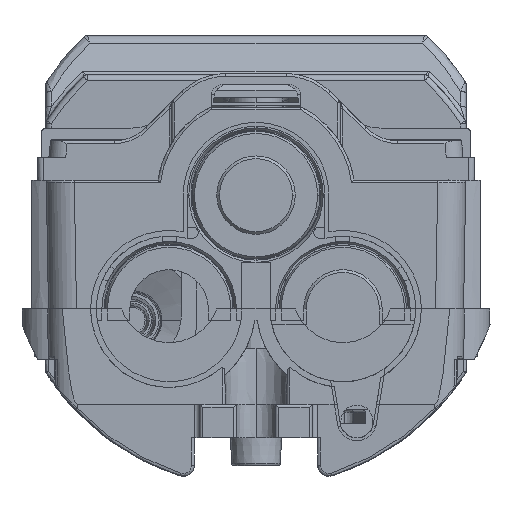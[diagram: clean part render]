
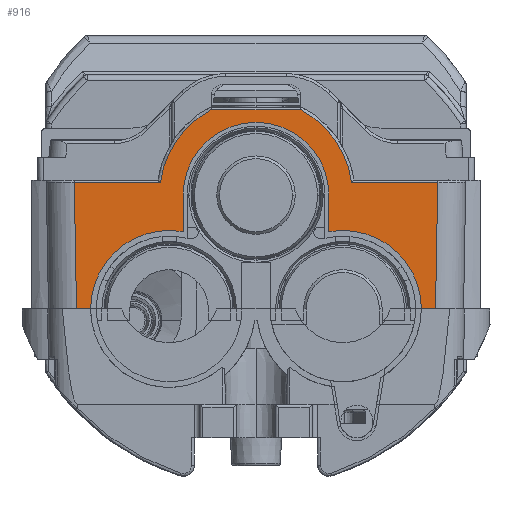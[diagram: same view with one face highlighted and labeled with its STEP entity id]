
A CAD part, left-side view. The second image highlights one B-rep face of the part: STEP entity #916.
In plain terms, the highlighted planar face has unit normal (-1, 0, 0).
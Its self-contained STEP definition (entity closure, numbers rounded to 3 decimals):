
#916 = ADVANCED_FACE ( 'NONE', ( #24275 ), #46040, .F. ) ;
#2554 = DIRECTION ( 'NONE',  ( 0., -1., 0. ) ) ;
#2935 = CIRCLE ( 'NONE', #37929, 17.2 ) ;
#3190 = CARTESIAN_POINT ( 'NONE',  ( -325.383, -8.05, 69.5 ) ) ;
#3486 = EDGE_CURVE ( 'NONE', #23854, #34823, #47620, .T. ) ;
#4989 = ORIENTED_EDGE ( 'NONE', *, *, #21580, .T. ) ;
#5275 = VERTEX_POINT ( 'NONE', #24694 ) ;
#5630 = ORIENTED_EDGE ( 'NONE', *, *, #31338, .T. ) ;
#6166 = VERTEX_POINT ( 'NONE', #17278 ) ;
#7150 = DIRECTION ( 'NONE',  ( 0., -0.017, -1. ) ) ;
#7215 = CARTESIAN_POINT ( 'NONE',  ( -325.383, 37.029, 56.5 ) ) ;
#7376 = CARTESIAN_POINT ( 'NONE',  ( -325.383, 0., 54.3 ) ) ;
#8062 = CARTESIAN_POINT ( 'NONE',  ( -325.383, 32.028, 34. ) ) ;
#8115 = LINE ( 'NONE', #39752, #52923 ) ;
#8473 = ORIENTED_EDGE ( 'NONE', *, *, #37780, .F. ) ;
#9037 = AXIS2_PLACEMENT_3D ( 'NONE', #49622, #24477, #53807 ) ;
#9644 = ORIENTED_EDGE ( 'NONE', *, *, #54199, .T. ) ;
#10335 = CARTESIAN_POINT ( 'NONE',  ( -325.383, 17.059, 56.5 ) ) ;
#10448 = VERTEX_POINT ( 'NONE', #44760 ) ;
#10779 = AXIS2_PLACEMENT_3D ( 'NONE', #39393, #14106, #43585 ) ;
#11211 = EDGE_CURVE ( 'NONE', #52569, #17937, #50276, .T. ) ;
#11373 = CARTESIAN_POINT ( 'NONE',  ( -325.383, -13., 47.775 ) ) ;
#11464 = DIRECTION ( 'NONE',  ( 0., 1., 0. ) ) ;
#11642 = DIRECTION ( 'NONE',  ( 0., 0., -1. ) ) ;
#13443 = CARTESIAN_POINT ( 'NONE',  ( -325.383, -32.421, 56.5 ) ) ;
#13640 = VECTOR ( 'NONE', #11464, 1000. ) ;
#14106 = DIRECTION ( 'NONE',  ( -1., 0., 0. ) ) ;
#14398 = CARTESIAN_POINT ( 'NONE',  ( -325.383, -32.74, 74.782 ) ) ;
#14450 = VECTOR ( 'NONE', #21692, 1000. ) ;
#14510 = DIRECTION ( 'NONE',  ( 0., -1., 0. ) ) ;
#14886 = VERTEX_POINT ( 'NONE', #13443 ) ;
#15044 = ORIENTED_EDGE ( 'NONE', *, *, #39522, .T. ) ;
#15179 = ORIENTED_EDGE ( 'NONE', *, *, #11211, .T. ) ;
#15500 = CARTESIAN_POINT ( 'NONE',  ( -325.383, 32.762, 76.074 ) ) ;
#16508 = ORIENTED_EDGE ( 'NONE', *, *, #38012, .F. ) ;
#17095 = CARTESIAN_POINT ( 'NONE',  ( -325.383, 37.029, 69.5 ) ) ;
#17278 = CARTESIAN_POINT ( 'NONE',  ( -325.383, 32.421, 56.5 ) ) ;
#17364 = EDGE_CURVE ( 'NONE', #19461, #23854, #53613, .T. ) ;
#17422 = CARTESIAN_POINT ( 'NONE',  ( -325.383, 13., 54.3 ) ) ;
#17655 = EDGE_CURVE ( 'NONE', #33334, #23708, #8115, .T. ) ;
#17937 = VERTEX_POINT ( 'NONE', #54393 ) ;
#18534 = CARTESIAN_POINT ( 'NONE',  ( -325.383, 13., 47.775 ) ) ;
#19141 = EDGE_CURVE ( 'NONE', #17937, #53884, #38426, .T. ) ;
#19461 = VERTEX_POINT ( 'NONE', #39289 ) ;
#19628 = LINE ( 'NONE', #14398, #29502 ) ;
#20785 = VECTOR ( 'NONE', #7150, 1000. ) ;
#21580 = EDGE_CURVE ( 'NONE', #10448, #52569, #2935, .T. ) ;
#21692 = DIRECTION ( 'NONE',  ( 0., 0., -1. ) ) ;
#22428 = VECTOR ( 'NONE', #24353, 1000. ) ;
#23102 = ORIENTED_EDGE ( 'NONE', *, *, #17364, .F. ) ;
#23546 = CARTESIAN_POINT ( 'NONE',  ( -325.383, 0., 54.3 ) ) ;
#23708 = VERTEX_POINT ( 'NONE', #39469 ) ;
#23735 = LINE ( 'NONE', #53688, #22428 ) ;
#23854 = VERTEX_POINT ( 'NONE', #11373 ) ;
#24275 = FACE_OUTER_BOUND ( 'NONE', #46389, .T. ) ;
#24353 = DIRECTION ( 'NONE',  ( 0., -1., 0. ) ) ;
#24477 = DIRECTION ( 'NONE',  ( -1., 0., 0. ) ) ;
#24694 = CARTESIAN_POINT ( 'NONE',  ( -325.383, -32.028, 34. ) ) ;
#25158 = DIRECTION ( 'NONE',  ( 1., 0., 0. ) ) ;
#25360 = VECTOR ( 'NONE', #34984, 1000. ) ;
#25766 = DIRECTION ( 'NONE',  ( 0., 1., 0. ) ) ;
#26229 = DIRECTION ( 'NONE',  ( 0., 1., 0. ) ) ;
#26238 = LINE ( 'NONE', #7215, #13640 ) ;
#26851 = ORIENTED_EDGE ( 'NONE', *, *, #17655, .T. ) ;
#26855 = EDGE_CURVE ( 'NONE', #34823, #34153, #54504, .T. ) ;
#27767 = DIRECTION ( 'NONE',  ( 0., 0., -1. ) ) ;
#27771 = VECTOR ( 'NONE', #26229, 1000. ) ;
#27815 = DIRECTION ( 'NONE',  ( -1., 0., 0. ) ) ;
#28554 = EDGE_CURVE ( 'NONE', #19461, #5275, #23735, .T. ) ;
#29128 = LINE ( 'NONE', #51375, #27771 ) ;
#29502 = VECTOR ( 'NONE', #48057, 1000. ) ;
#30276 = ORIENTED_EDGE ( 'NONE', *, *, #19141, .T. ) ;
#30883 = ORIENTED_EDGE ( 'NONE', *, *, #26855, .F. ) ;
#31338 = EDGE_CURVE ( 'NONE', #5275, #14886, #19628, .T. ) ;
#32725 = CARTESIAN_POINT ( 'NONE',  ( -325.383, -13., 54.3 ) ) ;
#33334 = VERTEX_POINT ( 'NONE', #8062 ) ;
#34153 = VERTEX_POINT ( 'NONE', #54174 ) ;
#34823 = VERTEX_POINT ( 'NONE', #32725 ) ;
#34984 = DIRECTION ( 'NONE',  ( 0., 0., 1. ) ) ;
#36946 = DIRECTION ( 'NONE',  ( -1., 0., 0. ) ) ;
#37780 = EDGE_CURVE ( 'NONE', #42906, #23708, #46091, .T. ) ;
#37929 = AXIS2_PLACEMENT_3D ( 'NONE', #23546, #52909, #27767 ) ;
#38012 = EDGE_CURVE ( 'NONE', #34153, #42906, #48009, .T. ) ;
#38426 = CIRCLE ( 'NONE', #51875, 17.2 ) ;
#39289 = CARTESIAN_POINT ( 'NONE',  ( -325.383, -29.5, 34. ) ) ;
#39393 = CARTESIAN_POINT ( 'NONE',  ( -325.383, 0., 54.3 ) ) ;
#39469 = CARTESIAN_POINT ( 'NONE',  ( -325.383, 29.5, 34. ) ) ;
#39522 = EDGE_CURVE ( 'NONE', #53884, #6166, #26238, .T. ) ;
#39752 = CARTESIAN_POINT ( 'NONE',  ( -325.383, 37.029, 34. ) ) ;
#42002 = AXIS2_PLACEMENT_3D ( 'NONE', #52951, #27815, #2554 ) ;
#42906 = VERTEX_POINT ( 'NONE', #18534 ) ;
#43030 = EDGE_CURVE ( 'NONE', #6166, #33334, #43087, .T. ) ;
#43087 = LINE ( 'NONE', #15500, #20785 ) ;
#43585 = DIRECTION ( 'NONE',  ( 0., -1., 0. ) ) ;
#43749 = AXIS2_PLACEMENT_3D ( 'NONE', #50289, #25158, #54486 ) ;
#43918 = ORIENTED_EDGE ( 'NONE', *, *, #43030, .T. ) ;
#44760 = CARTESIAN_POINT ( 'NONE',  ( -325.383, -17.059, 56.5 ) ) ;
#44814 = ORIENTED_EDGE ( 'NONE', *, *, #28554, .T. ) ;
#46040 = PLANE ( 'NONE',  #43749 ) ;
#46091 = CIRCLE ( 'NONE', #9037, 14. ) ;
#46389 = EDGE_LOOP ( 'NONE', ( #30276, #15044, #43918, #26851, #8473, #16508, #30883, #46599, #23102, #44814, #5630, #9644, #4989, #15179 ) ) ;
#46599 = ORIENTED_EDGE ( 'NONE', *, *, #3486, .F. ) ;
#47620 = LINE ( 'NONE', #47720, #25360 ) ;
#47720 = CARTESIAN_POINT ( 'NONE',  ( -325.383, -13., 54.3 ) ) ;
#48009 = LINE ( 'NONE', #17422, #14450 ) ;
#48057 = DIRECTION ( 'NONE',  ( 0., -0.017, 1. ) ) ;
#48911 = VECTOR ( 'NONE', #25766, 1000. ) ;
#49622 = CARTESIAN_POINT ( 'NONE',  ( -325.383, 15.5, 34. ) ) ;
#50276 = LINE ( 'NONE', #17095, #48911 ) ;
#50289 = CARTESIAN_POINT ( 'NONE',  ( -325.383, 37.029, 76. ) ) ;
#51375 = CARTESIAN_POINT ( 'NONE',  ( -325.383, 37.029, 56.5 ) ) ;
#51875 = AXIS2_PLACEMENT_3D ( 'NONE', #7376, #36946, #11642 ) ;
#52569 = VERTEX_POINT ( 'NONE', #3190 ) ;
#52909 = DIRECTION ( 'NONE',  ( -1., 0., 0. ) ) ;
#52923 = VECTOR ( 'NONE', #14510, 1000. ) ;
#52951 = CARTESIAN_POINT ( 'NONE',  ( -325.383, -15.5, 34. ) ) ;
#53613 = CIRCLE ( 'NONE', #42002, 14. ) ;
#53688 = CARTESIAN_POINT ( 'NONE',  ( -325.383, 37.029, 34. ) ) ;
#53807 = DIRECTION ( 'NONE',  ( 0., -1., 0. ) ) ;
#53884 = VERTEX_POINT ( 'NONE', #10335 ) ;
#54174 = CARTESIAN_POINT ( 'NONE',  ( -325.383, 13., 54.3 ) ) ;
#54199 = EDGE_CURVE ( 'NONE', #14886, #10448, #29128, .T. ) ;
#54393 = CARTESIAN_POINT ( 'NONE',  ( -325.383, 8.05, 69.5 ) ) ;
#54486 = DIRECTION ( 'NONE',  ( 0., 0., -1. ) ) ;
#54504 = CIRCLE ( 'NONE', #10779, 13. ) ;
